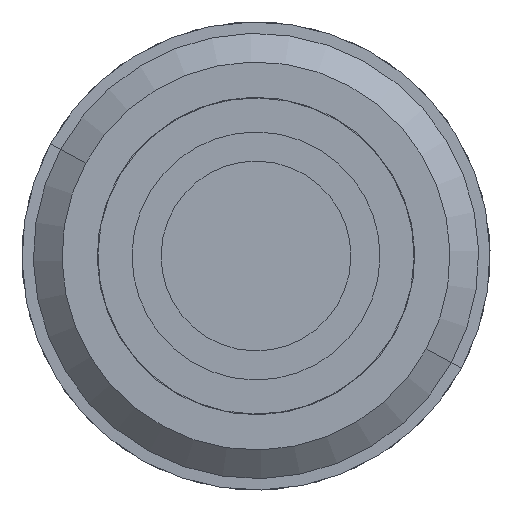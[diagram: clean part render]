
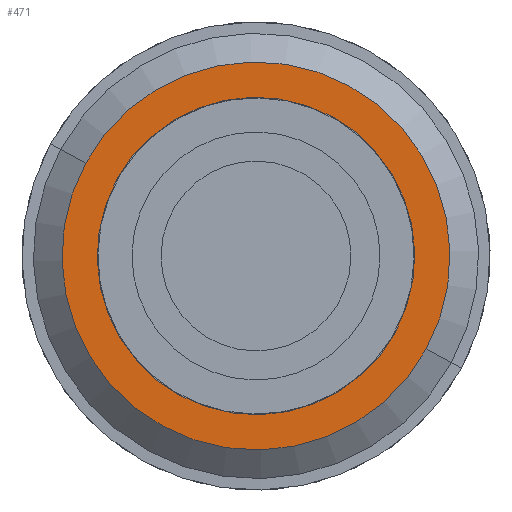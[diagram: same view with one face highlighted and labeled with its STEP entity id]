
A CAD part, left-side view. The second image highlights one B-rep face of the part: STEP entity #471.
In plain terms, the highlighted free-form (B-spline) face has degree [1, 1] with [2, 2] control points.
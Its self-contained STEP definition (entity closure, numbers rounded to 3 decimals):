
#471=ADVANCED_FACE('',(#1239,#1240),#1241,.T.);
#809=VERTEX_POINT('',#1635);
#813=VERTEX_POINT('',#1639);
#817=EDGE_CURVE('',#813,#809,#1643,.T.);
#819=EDGE_CURVE('',#809,#813,#1645,.T.);
#833=VERTEX_POINT('',#1659);
#835=VERTEX_POINT('',#1661);
#837=EDGE_CURVE('',#833,#835,#1663,.T.);
#839=EDGE_CURVE('',#835,#833,#1665,.T.);
#1239=FACE_OUTER_BOUND('',#2778,.T.);
#1240=FACE_BOUND('',#2779,.T.);
#1241=B_SPLINE_SURFACE_WITH_KNOTS('',1,1,((#2780,#2781),(#2782,#2783)),.UNSPECIFIED.,.F.,.F.,.F.,(2,2),(2,2),(0.139,0.861),(0.139,0.861),.UNSPECIFIED.);
#1635=CARTESIAN_POINT('',(-32.0,13.459,7.349));
#1639=CARTESIAN_POINT('',(-32.0,-13.459,-7.349));
#1643=CIRCLE('',#3824,15.334);
#1645=CIRCLE('',#3827,15.334);
#1659=CARTESIAN_POINT('',(-32.0,11.015,6.015));
#1661=CARTESIAN_POINT('',(-32.0,-11.015,-6.015));
#1663=CIRCLE('',#3852,12.55);
#1665=CIRCLE('',#3855,12.55);
#2778=EDGE_LOOP('',(#4438,#4439));
#2779=EDGE_LOOP('',(#4440,#4441));
#2780=CARTESIAN_POINT('',(-32.0,-15.381,-15.375));
#2781=CARTESIAN_POINT('',(-32.0,15.375,-15.381));
#2782=CARTESIAN_POINT('',(-32.0,-15.375,15.381));
#2783=CARTESIAN_POINT('',(-32.0,15.381,15.375));
#3824=AXIS2_PLACEMENT_3D('',#4812,#4813,#4814);
#3827=AXIS2_PLACEMENT_3D('',#4815,#4816,#4817);
#3852=AXIS2_PLACEMENT_3D('',#4826,#4827,#4828);
#3855=AXIS2_PLACEMENT_3D('',#4829,#4830,#4831);
#4438=ORIENTED_EDGE('',*,*,#817,.F.);
#4439=ORIENTED_EDGE('',*,*,#819,.F.);
#4440=ORIENTED_EDGE('',*,*,#837,.T.);
#4441=ORIENTED_EDGE('',*,*,#839,.T.);
#4812=CARTESIAN_POINT('',(-32.0,0.,0.));
#4813=DIRECTION('',(1.0,0.,0.));
#4814=DIRECTION('',(0.,-0.878,-0.479));
#4815=CARTESIAN_POINT('',(-32.0,0.,0.));
#4816=DIRECTION('',(1.0,0.,0.));
#4817=DIRECTION('',(0.,0.878,0.479));
#4826=CARTESIAN_POINT('',(-32.0,0.,0.));
#4827=DIRECTION('',(1.0,0.0,-0.0));
#4828=DIRECTION('',(0.0,0.878,0.479));
#4829=CARTESIAN_POINT('',(-32.0,0.,0.));
#4830=DIRECTION('',(1.0,0.0,0.0));
#4831=DIRECTION('',(0.0,-0.878,-0.479));
